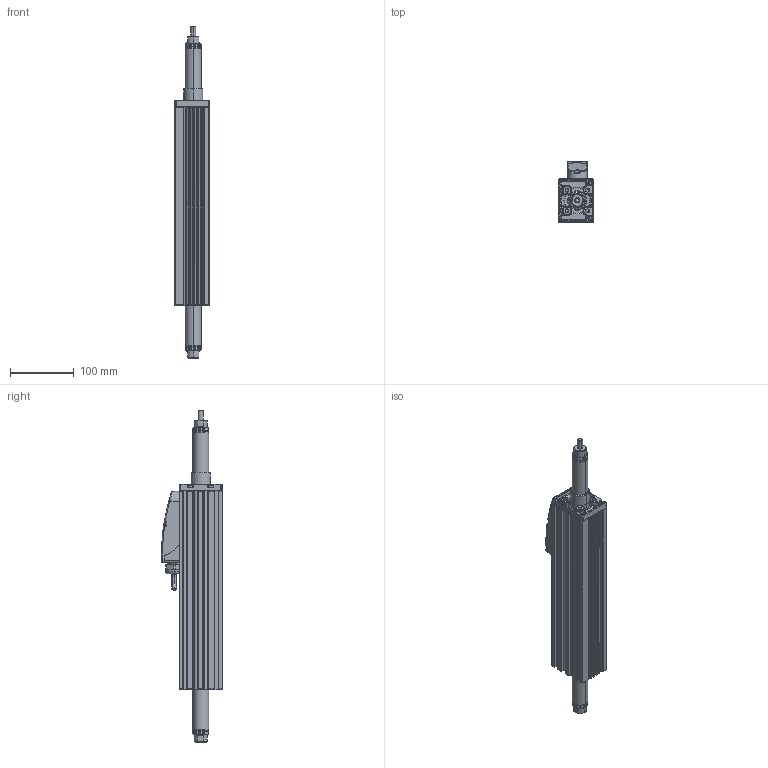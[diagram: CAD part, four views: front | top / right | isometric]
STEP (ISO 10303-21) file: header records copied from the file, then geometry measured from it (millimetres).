
FILE_DESCRIPTION (( 'STEP AP203' ), '1' );
FILE_NAME ('STA2510-130.STEP', '2011-10-13T14:09:11', ( 'showsden' ), ( '' ), 'SwSTEP 2.0', 'SolidWorks 2011', '' );
FILE_SCHEMA (( 'CONFIG_CONTROL_DESIGN' ));
Products named in the file (14): TRA25 Thrust Rod - Solid_TRA2510 (130); STA2510-130; STA25 MOTOR HOUSING (REV-B)_STA2510; STA25 Bearing End Support - Solid_MP02261; Screw, Cap Head, M4_Screw, Cap Head, M4 x 16; MP02254-D ST25 Pod Base Gasket_MP02254; ST25 POD ASSEMBLY (DLS)_ST25 POD ASSEMBLY (SOLID); POWER CABLE_FLEXING (POWER); ST25 CABLE ASSEMBLY (REV2)_MA02197 (FLEXING); Screw, Button Head, M3_Screw, Button Head, M3 x 10; PG16 Gland Nut (REV2)_PG16 (REV 2); SIGNAL CABLE_FLEXING (SIGNAL); ST25 POD (DLS)_ST25 POD (SOLID); Screw, Cap Head, M2.5_Screw, Cap Head, M2.5 x 6
Assembly tree (20 placements, depth 4):
  STA2510-130
    TRA25 Thrust Rod - Solid_TRA2510 (130)
    Screw, Cap Head, M4_Screw, Cap Head, M4 x 16  x4
    STA25 Bearing End Support - Solid_MP02261
    ST25 POD ASSEMBLY (DLS)_ST25 POD ASSEMBLY (SOLID)
      Screw, Button Head, M3_Screw, Button Head, M3 x 10  x4
      Screw, Cap Head, M2.5_Screw, Cap Head, M2.5 x 6  x2
      ST25 CABLE ASSEMBLY (REV2)_MA02197 (FLEXING)
        PG16 Gland Nut (REV2)_PG16 (REV 2)
        POWER CABLE_FLEXING (POWER)
        SIGNAL CABLE_FLEXING (SIGNAL)
      ST25 POD (DLS)_ST25 POD (SOLID)
      MP02254-D ST25 Pod Base Gasket_MP02254
    STA25 MOTOR HOUSING (REV-B)_STA2510
Bounding box: 54 x 95.5 x 522 mm (x, y, z)
Volume: 1143522.4 mm3; surface area: 274848.2 mm2
Topology: 18 solids, 18 shells, 1636 faces, 4226 edges, 2687 vertices
Faces by surface type: plane 567, cylinder 516, bspline 365, cone 116, torus 56, sphere 16
Entity records: 75343 total; most frequent: CARTESIAN_POINT 39247, ORIENTED_EDGE 7888, DIRECTION 6221, EDGE_CURVE 3944, VERTEX_POINT 2531, AXIS2_PLACEMENT_3D 2326, EDGE_LOOP 1659, LINE 1569
